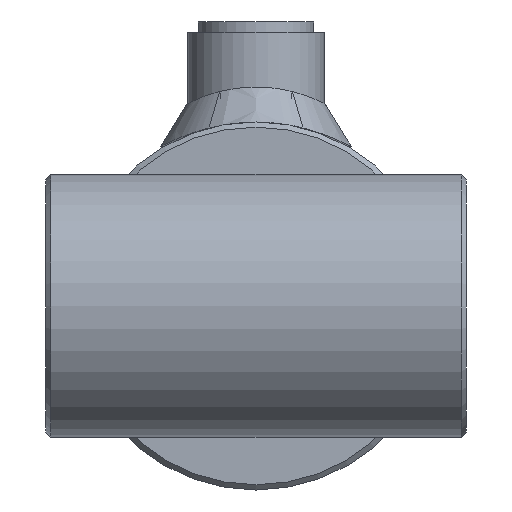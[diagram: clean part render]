
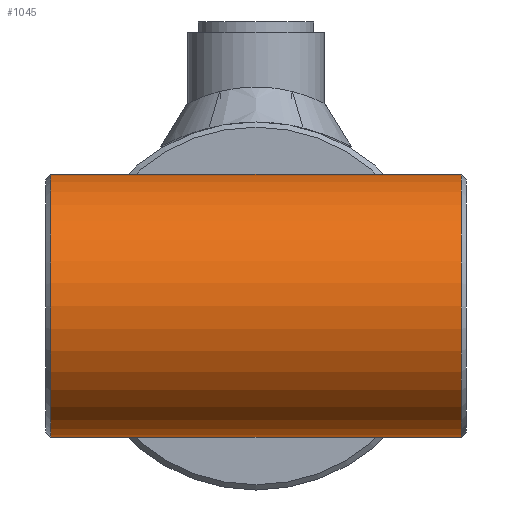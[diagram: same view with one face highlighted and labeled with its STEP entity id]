
A CAD part, left-side view. The second image highlights one B-rep face of the part: STEP entity #1045.
In plain terms, the highlighted cylindrical face has radius 25 mm (diameter 50 mm), a full revolution.
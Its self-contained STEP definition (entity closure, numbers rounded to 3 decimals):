
#1045 = ADVANCED_FACE( '', ( #1967, #1968 ), #1969, .T. );
#1967 = FACE_OUTER_BOUND( '', #6932, .T. );
#1968 = FACE_OUTER_BOUND( '', #6933, .T. );
#1969 = CYLINDRICAL_SURFACE( '', #6934, 25. );
#6932 = EDGE_LOOP( '', ( #11710 ) );
#6933 = EDGE_LOOP( '', ( #11711 ) );
#6934 = AXIS2_PLACEMENT_3D( '', #11712, #11713, #11714 );
#11710 = ORIENTED_EDGE( '', *, *, #12771, .T. );
#11711 = ORIENTED_EDGE( '', *, *, #12772, .T. );
#11712 = CARTESIAN_POINT( '', ( 0., -40., 0. ) );
#11713 = DIRECTION( '', ( 0., -1., 0. ) );
#11714 = DIRECTION( '', ( 0., 0., 1. ) );
#12771 = EDGE_CURVE( '', #13823, #13823, #13824, .F. );
#12772 = EDGE_CURVE( '', #13825, #13825, #13826, .T. );
#13823 = VERTEX_POINT( '', #16823 );
#13824 = CIRCLE( '', #16824, 25. );
#13825 = VERTEX_POINT( '', #16825 );
#13826 = CIRCLE( '', #16826, 25. );
#16823 = CARTESIAN_POINT( '', ( 0., 39., 25. ) );
#16824 = AXIS2_PLACEMENT_3D( '', #17841, #17842, #17843 );
#16825 = CARTESIAN_POINT( '', ( 0., -39., 25. ) );
#16826 = AXIS2_PLACEMENT_3D( '', #17844, #17845, #17846 );
#17841 = CARTESIAN_POINT( '', ( 0., 39., 0. ) );
#17842 = DIRECTION( '', ( 0., 1., 0. ) );
#17843 = DIRECTION( '', ( 0., 0., 1. ) );
#17844 = CARTESIAN_POINT( '', ( 0., -39., 0. ) );
#17845 = DIRECTION( '', ( 0., 1., 0. ) );
#17846 = DIRECTION( '', ( 0., 0., 1. ) );
